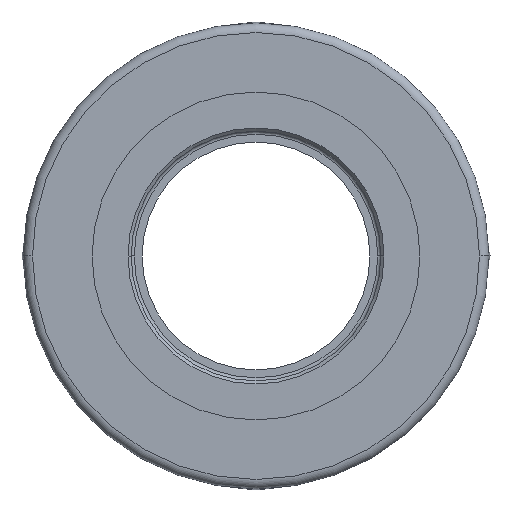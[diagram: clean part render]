
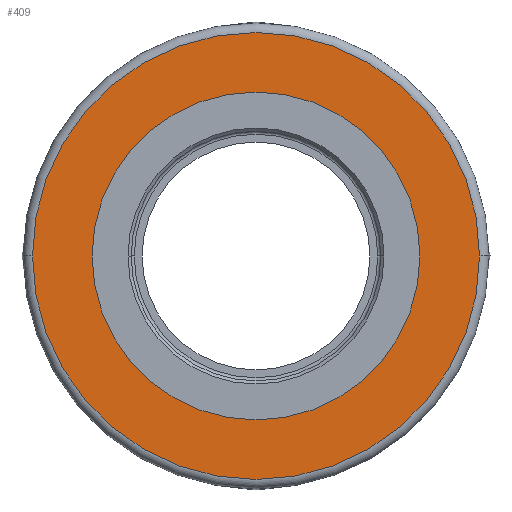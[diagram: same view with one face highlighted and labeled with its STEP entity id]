
A CAD part, left-side view. The second image highlights one B-rep face of the part: STEP entity #409.
In plain terms, the highlighted planar face has unit normal (-1, 0, 0).
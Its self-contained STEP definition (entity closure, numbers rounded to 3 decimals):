
#25=CARTESIAN_POINT('',(-23.,0.,0.));
#26=DIRECTION('',(-1.,0.,0.));
#27=DIRECTION('',(0.,-1.,0.));
#28=AXIS2_PLACEMENT_3D('',#25,#26,#27);
#30=CARTESIAN_POINT('',(-23.,0.,0.));
#31=DIRECTION('',(-1.,0.,0.));
#32=DIRECTION('',(0.,1.,0.));
#33=AXIS2_PLACEMENT_3D('',#30,#31,#32);
#35=CARTESIAN_POINT('',(-23.,0.,0.));
#36=DIRECTION('',(-1.,0.,0.));
#37=DIRECTION('',(0.,1.,0.));
#38=AXIS2_PLACEMENT_3D('',#35,#36,#37);
#40=CARTESIAN_POINT('',(-23.,0.,0.));
#41=DIRECTION('',(-1.,0.,0.));
#42=DIRECTION('',(0.,-1.,0.));
#43=AXIS2_PLACEMENT_3D('',#40,#41,#42);
#308=CARTESIAN_POINT('',(-23.,-52.5,0.));
#309=CARTESIAN_POINT('',(-23.,52.5,0.));
#310=VERTEX_POINT('',#308);
#311=VERTEX_POINT('',#309);
#352=CARTESIAN_POINT('',(-23.,71.597,0.));
#353=CARTESIAN_POINT('',(-23.,-71.597,0.));
#354=VERTEX_POINT('',#352);
#355=VERTEX_POINT('',#353);
#393=CARTESIAN_POINT('',(-23.,0.,0.));
#394=DIRECTION('',(1.,0.,0.));
#395=DIRECTION('',(0.,-1.,0.));
#396=AXIS2_PLACEMENT_3D('',#393,#394,#395);
#397=PLANE('',#396);
#399=ORIENTED_EDGE('',*,*,#398,.F.);
#401=ORIENTED_EDGE('',*,*,#400,.F.);
#402=EDGE_LOOP('',(#399,#401));
#403=FACE_OUTER_BOUND('',#402,.F.);
#405=ORIENTED_EDGE('',*,*,#404,.T.);
#406=ORIENTED_EDGE('',*,*,#383,.T.);
#407=EDGE_LOOP('',(#405,#406));
#408=FACE_BOUND('',#407,.F.);
#409=ADVANCED_FACE('',(#403,#408),#397,.F.);
#29=CIRCLE('',#28,52.5);
#34=CIRCLE('',#33,52.5);
#39=CIRCLE('',#38,71.597);
#44=CIRCLE('',#43,71.597);
#383=EDGE_CURVE('',#311,#310,#34,.T.);
#398=EDGE_CURVE('',#354,#355,#39,.T.);
#400=EDGE_CURVE('',#355,#354,#44,.T.);
#404=EDGE_CURVE('',#310,#311,#29,.T.);
